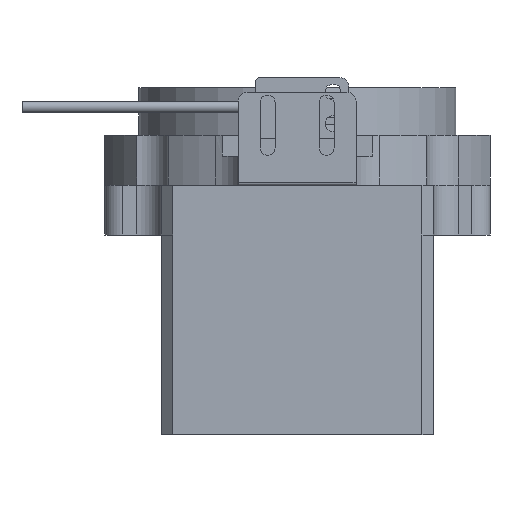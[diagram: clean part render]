
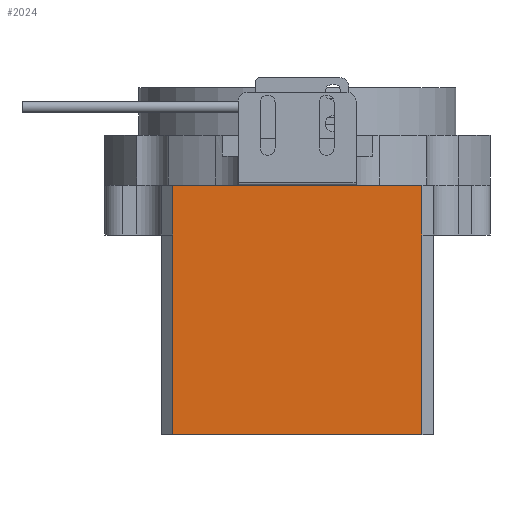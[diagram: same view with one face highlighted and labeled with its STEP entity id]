
A CAD part, front view. The second image highlights one B-rep face of the part: STEP entity #2024.
In plain terms, the highlighted planar face has unit normal (0, -1, 0).
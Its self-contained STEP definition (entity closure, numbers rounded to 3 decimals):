
#1160 = CARTESIAN_POINT ( 'NONE',  ( -47.278, -51.805, 5.75 ) ) ;
#1738 = CARTESIAN_POINT ( 'NONE',  ( -47.278, -51.805, 38.25 ) ) ;
#2024 = ADVANCED_FACE ( 'NONE', ( #32754 ), #52535, .F. ) ;
#2286 = VECTOR ( 'NONE', #52430, 1000. ) ;
#4175 = DIRECTION ( 'NONE',  ( 1., 0., 0. ) ) ;
#4272 = EDGE_CURVE ( 'NONE', #40279, #62566, #17018, .T. ) ;
#5829 = CARTESIAN_POINT ( 'NONE',  ( 7.722, -51.805, 5.75 ) ) ;
#6257 = DIRECTION ( 'NONE',  ( 0., 0., 1. ) ) ;
#12639 = VERTEX_POINT ( 'NONE', #40672 ) ;
#13073 = EDGE_CURVE ( 'NONE', #12639, #56084, #16235, .T. ) ;
#13270 = EDGE_LOOP ( 'NONE', ( #36159, #29106, #24840, #38161, #19596, #64104 ) ) ;
#13772 = CARTESIAN_POINT ( 'NONE',  ( -47.278, -51.805, 38.25 ) ) ;
#14296 = LINE ( 'NONE', #39836, #47466 ) ;
#14822 = CARTESIAN_POINT ( 'NONE',  ( 7.722, -51.805, 16.75 ) ) ;
#16235 = LINE ( 'NONE', #25990, #39702 ) ;
#16983 = DIRECTION ( 'NONE',  ( 0., 1., 0. ) ) ;
#17018 = LINE ( 'NONE', #57244, #19527 ) ;
#19527 = VECTOR ( 'NONE', #6257, 1000. ) ;
#19596 = ORIENTED_EDGE ( 'NONE', *, *, #4272, .T. ) ;
#20658 = DIRECTION ( 'NONE',  ( 0., 0., 1. ) ) ;
#21688 = CARTESIAN_POINT ( 'NONE',  ( 7.722, -51.805, 5.75 ) ) ;
#21965 = LINE ( 'NONE', #5829, #48675 ) ;
#23847 = LINE ( 'NONE', #13772, #45471 ) ;
#24840 = ORIENTED_EDGE ( 'NONE', *, *, #13073, .F. ) ;
#25990 = CARTESIAN_POINT ( 'NONE',  ( 10.222, -51.805, -38.25 ) ) ;
#29106 = ORIENTED_EDGE ( 'NONE', *, *, #56620, .T. ) ;
#32754 = FACE_OUTER_BOUND ( 'NONE', #13270, .T. ) ;
#36159 = ORIENTED_EDGE ( 'NONE', *, *, #38193, .T. ) ;
#38161 = ORIENTED_EDGE ( 'NONE', *, *, #58400, .T. ) ;
#38193 = EDGE_CURVE ( 'NONE', #43695, #56393, #23847, .T. ) ;
#38956 = CARTESIAN_POINT ( 'NONE',  ( -47.278, -51.805, -38.25 ) ) ;
#39702 = VECTOR ( 'NONE', #56159, 1000. ) ;
#39836 = CARTESIAN_POINT ( 'NONE',  ( -19.778, -51.805, 16.75 ) ) ;
#39918 = CARTESIAN_POINT ( 'NONE',  ( -47.278, -51.805, 16.75 ) ) ;
#40279 = VERTEX_POINT ( 'NONE', #21688 ) ;
#40672 = CARTESIAN_POINT ( 'NONE',  ( 7.722, -51.805, -38.25 ) ) ;
#43695 = VERTEX_POINT ( 'NONE', #39918 ) ;
#44711 = DIRECTION ( 'NONE',  ( 0., 0., -1. ) ) ;
#45471 = VECTOR ( 'NONE', #44711, 1000. ) ;
#47232 = DIRECTION ( 'NONE',  ( 1., 0., 0. ) ) ;
#47466 = VECTOR ( 'NONE', #4175, 1000. ) ;
#47791 = LINE ( 'NONE', #1738, #2286 ) ;
#48675 = VECTOR ( 'NONE', #20658, 1000. ) ;
#49595 = EDGE_CURVE ( 'NONE', #43695, #62566, #14296, .T. ) ;
#52430 = DIRECTION ( 'NONE',  ( 0., 0., -1. ) ) ;
#52535 = PLANE ( 'NONE',  #54200 ) ;
#54200 = AXIS2_PLACEMENT_3D ( 'NONE', #56887, #16983, #47232 ) ;
#56084 = VERTEX_POINT ( 'NONE', #38956 ) ;
#56159 = DIRECTION ( 'NONE',  ( -1., 0., 0. ) ) ;
#56393 = VERTEX_POINT ( 'NONE', #1160 ) ;
#56620 = EDGE_CURVE ( 'NONE', #56393, #56084, #47791, .T. ) ;
#56887 = CARTESIAN_POINT ( 'NONE',  ( -19.778, -51.805, 38.25 ) ) ;
#57244 = CARTESIAN_POINT ( 'NONE',  ( 7.722, -51.805, 16.75 ) ) ;
#58400 = EDGE_CURVE ( 'NONE', #12639, #40279, #21965, .T. ) ;
#62566 = VERTEX_POINT ( 'NONE', #14822 ) ;
#64104 = ORIENTED_EDGE ( 'NONE', *, *, #49595, .F. ) ;
